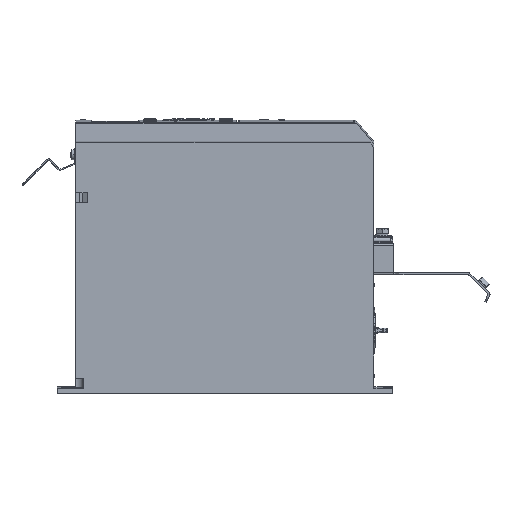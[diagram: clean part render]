
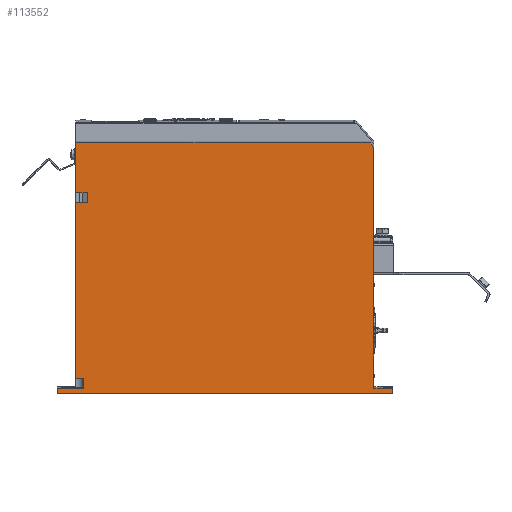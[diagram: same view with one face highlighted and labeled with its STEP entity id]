
A CAD part, left-side view. The second image highlights one B-rep face of the part: STEP entity #113552.
In plain terms, the highlighted planar face has unit normal (-1, 0, 0).
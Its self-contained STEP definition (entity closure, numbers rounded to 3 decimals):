
#6087=DIRECTION('',(0.,0.,1.));
#6088=VECTOR('',#6087,192.189);
#6089=CARTESIAN_POINT('',(-44.8,-119.,4.));
#6090=LINE('',#6089,#6088);
#26846=DIRECTION('',(0.,0.,1.));
#26847=VECTOR('',#26846,39.75);
#26848=CARTESIAN_POINT('',(-44.8,119.,160.));
#26849=LINE('',#26848,#26847);
#26874=DIRECTION('',(0.,0.,1.));
#26875=VECTOR('',#26874,140.);
#26876=CARTESIAN_POINT('',(-44.8,119.,12.));
#26877=LINE('',#26876,#26875);
#37856=DIRECTION('',(0.,1.,0.));
#37857=VECTOR('',#37856,15.);
#37858=CARTESIAN_POINT('',(-44.8,-134.,4.));
#37859=LINE('',#37858,#37857);
#37896=DIRECTION('',(0.,1.,0.));
#37897=VECTOR('',#37896,21.);
#37898=CARTESIAN_POINT('',(-44.8,113.,4.));
#37899=LINE('',#37898,#37897);
#38327=DIRECTION('',(0.,0.,1.));
#38328=VECTOR('',#38327,4.);
#38329=CARTESIAN_POINT('',(-44.8,-134.,0.));
#38330=LINE('',#38329,#38328);
#38369=DIRECTION('',(0.,1.,0.));
#38370=VECTOR('',#38369,9.);
#38371=CARTESIAN_POINT('',(-44.8,110.,160.));
#38372=LINE('',#38371,#38370);
#38376=CARTESIAN_POINT('',(-44.8,-116.08,199.75));
#38377=CARTESIAN_POINT('',(-44.8,-116.408,199.351));
#38378=CARTESIAN_POINT('',(-44.8,-117.061,198.555));
#38379=CARTESIAN_POINT('',(-44.8,-118.034,197.368));
#38380=CARTESIAN_POINT('',(-44.8,-118.679,196.581));
#38381=CARTESIAN_POINT('',(-44.8,-119.,196.189));
#38386=DIRECTION('',(0.,1.,0.));
#38387=VECTOR('',#38386,268.);
#38388=CARTESIAN_POINT('',(-44.8,-134.,0.));
#38389=LINE('',#38388,#38387);
#38393=DIRECTION('',(0.,0.,1.));
#38394=VECTOR('',#38393,8.);
#38395=CARTESIAN_POINT('',(-44.8,113.,4.));
#38396=LINE('',#38395,#38394);
#38400=DIRECTION('',(0.,1.,0.));
#38401=VECTOR('',#38400,6.);
#38402=CARTESIAN_POINT('',(-44.8,113.,12.));
#38403=LINE('',#38402,#38401);
#38407=DIRECTION('',(0.,1.,0.));
#38408=VECTOR('',#38407,9.);
#38409=CARTESIAN_POINT('',(-44.8,110.,152.));
#38410=LINE('',#38409,#38408);
#38414=DIRECTION('',(0.,0.,-1.));
#38415=VECTOR('',#38414,8.);
#38416=CARTESIAN_POINT('',(-44.8,110.,160.));
#38417=LINE('',#38416,#38415);
#41545=DIRECTION('',(0.,1.,0.));
#41546=VECTOR('',#41545,235.08);
#41547=CARTESIAN_POINT('',(-44.8,-116.08,199.75));
#41548=LINE('',#41547,#41546);
#41590=DIRECTION('',(0.,0.,1.));
#41591=VECTOR('',#41590,4.);
#41592=CARTESIAN_POINT('',(-44.8,134.,0.));
#41593=LINE('',#41592,#41591);
#68685=CARTESIAN_POINT('',(-44.8,-134.,0.));
#68686=CARTESIAN_POINT('',(-44.8,-134.,4.));
#68687=VERTEX_POINT('',#68685);
#68688=VERTEX_POINT('',#68686);
#68694=CARTESIAN_POINT('',(-44.8,134.,0.));
#68696=VERTEX_POINT('',#68694);
#68697=CARTESIAN_POINT('',(-44.8,134.,4.));
#68698=VERTEX_POINT('',#68697);
#68703=CARTESIAN_POINT('',(-44.8,-119.,4.));
#68705=VERTEX_POINT('',#68703);
#68777=CARTESIAN_POINT('',(-44.8,113.,4.));
#68778=CARTESIAN_POINT('',(-44.8,113.,12.));
#68779=VERTEX_POINT('',#68777);
#68780=VERTEX_POINT('',#68778);
#68781=CARTESIAN_POINT('',(-44.8,119.,12.));
#68782=VERTEX_POINT('',#68781);
#73524=CARTESIAN_POINT('',(-44.8,119.,199.75));
#73525=VERTEX_POINT('',#73524);
#74034=CARTESIAN_POINT('',(-44.8,-119.,196.189));
#74035=VERTEX_POINT('',#74034);
#74036=VERTEX_POINT('',#38376);
#75908=CARTESIAN_POINT('',(-44.8,119.,160.));
#75910=VERTEX_POINT('',#75908);
#75912=CARTESIAN_POINT('',(-44.8,119.,152.));
#75914=VERTEX_POINT('',#75912);
#75916=CARTESIAN_POINT('',(-44.8,110.,160.));
#75917=VERTEX_POINT('',#75916);
#75918=CARTESIAN_POINT('',(-44.8,110.,152.));
#75919=VERTEX_POINT('',#75918);
#113522=CARTESIAN_POINT('',(-44.8,-119.,0.));
#113523=DIRECTION('',(-1.,0.,0.));
#113524=DIRECTION('',(0.,0.,1.));
#113525=AXIS2_PLACEMENT_3D('',#113522,#113523,#113524);
#113526=PLANE('',#113525);
#113528=ORIENTED_EDGE('',*,*,#113527,.T.);
#113529=ORIENTED_EDGE('',*,*,#107680,.T.);
#113531=ORIENTED_EDGE('',*,*,#113530,.F.);
#113533=ORIENTED_EDGE('',*,*,#113532,.T.);
#113534=ORIENTED_EDGE('',*,*,#77731,.F.);
#113535=ORIENTED_EDGE('',*,*,#112927,.F.);
#113536=ORIENTED_EDGE('',*,*,#113356,.F.);
#113537=ORIENTED_EDGE('',*,*,#113063,.T.);
#113539=ORIENTED_EDGE('',*,*,#113538,.T.);
#113540=ORIENTED_EDGE('',*,*,#112965,.F.);
#113542=ORIENTED_EDGE('',*,*,#113541,.T.);
#113544=ORIENTED_EDGE('',*,*,#113543,.T.);
#113545=ORIENTED_EDGE('',*,*,#107688,.T.);
#113547=ORIENTED_EDGE('',*,*,#113546,.F.);
#113549=ORIENTED_EDGE('',*,*,#113548,.F.);
#113550=EDGE_LOOP('',(#113528,#113529,#113531,#113533,#113534,#113535,#113536,
#113537,#113539,#113540,#113542,#113544,#113545,#113547,#113549));
#113551=FACE_OUTER_BOUND('',#113550,.F.);
#113552=ADVANCED_FACE('',(#113551),#113526,.T.);
#38382=B_SPLINE_CURVE_WITH_KNOTS('',3,(#38376,#38377,#38378,#38379,#38380,
#38381),.UNSPECIFIED.,.F.,.F.,(4,1,1,4),(0.,0.333,
0.667,1.),.UNSPECIFIED.);
#77731=EDGE_CURVE('',#68705,#74035,#6090,.T.);
#107680=EDGE_CURVE('',#75910,#73525,#26849,.T.);
#107688=EDGE_CURVE('',#68782,#75914,#26877,.T.);
#112927=EDGE_CURVE('',#68688,#68705,#37859,.T.);
#112965=EDGE_CURVE('',#68779,#68698,#37899,.T.);
#113063=EDGE_CURVE('',#68687,#68696,#38389,.T.);
#113356=EDGE_CURVE('',#68687,#68688,#38330,.T.);
#113527=EDGE_CURVE('',#75917,#75910,#38372,.T.);
#113530=EDGE_CURVE('',#74036,#73525,#41548,.T.);
#113532=EDGE_CURVE('',#74036,#74035,#38382,.T.);
#113538=EDGE_CURVE('',#68696,#68698,#41593,.T.);
#113541=EDGE_CURVE('',#68779,#68780,#38396,.T.);
#113543=EDGE_CURVE('',#68780,#68782,#38403,.T.);
#113546=EDGE_CURVE('',#75919,#75914,#38410,.T.);
#113548=EDGE_CURVE('',#75917,#75919,#38417,.T.);
